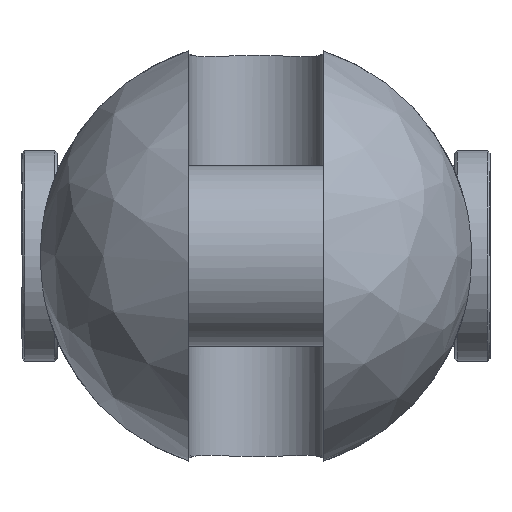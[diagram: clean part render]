
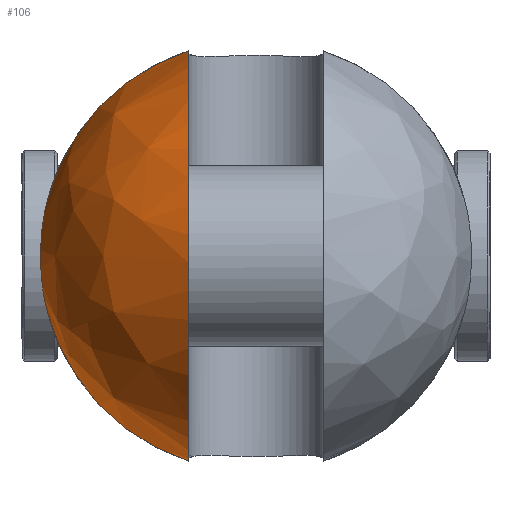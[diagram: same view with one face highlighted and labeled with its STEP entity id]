
A CAD part, left-side view. The second image highlights one B-rep face of the part: STEP entity #106.
In plain terms, the highlighted free-form (B-spline) face has degree [2, 2] with [9, 5] control points.
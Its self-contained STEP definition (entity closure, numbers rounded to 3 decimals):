
#106=ADVANCED_FACE('',(#181),#1311,.T.);
#181=FACE_OUTER_BOUND('',#266,.T.);
#266=EDGE_LOOP('',(#665,#666,#667,#668));
#665=ORIENTED_EDGE('',*,*,#811,.T.);
#666=ORIENTED_EDGE('',*,*,#846,.F.);
#667=ORIENTED_EDGE('',*,*,#878,.T.);
#668=ORIENTED_EDGE('',*,*,#838,.F.);
#811=EDGE_CURVE('',#1196,#1195,#1047,.T.);
#838=EDGE_CURVE('',#1196,#1212,#1059,.T.);
#846=EDGE_CURVE('',#1219,#1195,#1060,.T.);
#878=EDGE_CURVE('',#1219,#1212,#968,.T.);
#968=B_SPLINE_CURVE_WITH_KNOTS('',3,(#3250,#3251,#3252,#3253,#3254,#3255,
#3256,#3257,#3258,#3259,#3260,#3261,#3262,#3263),.UNSPECIFIED.,.F.,.F.,
(4,2,2,2,2,2,4),(0.,1.605,6.679,11.753,
16.827,21.902,23.506),.UNSPECIFIED.);
#1047=(
BOUNDED_CURVE()
B_SPLINE_CURVE(2,(#2908,#2909,#2910,#2911,#2912),.UNSPECIFIED.,.F.,.F.)
B_SPLINE_CURVE_WITH_KNOTS((3,2,3),(-128.258,-64.129,
0.),.UNSPECIFIED.)
CURVE()
GEOMETRIC_REPRESENTATION_ITEM()
RATIONAL_B_SPLINE_CURVE((1.,0.707,1.,0.707,1.))
REPRESENTATION_ITEM('')
);
#1059=(
BOUNDED_CURVE()
B_SPLINE_CURVE(2,(#3060,#3061,#3062),.UNSPECIFIED.,.F.,.F.)
B_SPLINE_CURVE_WITH_KNOTS((3,3),(0.,42.595),.UNSPECIFIED.)
CURVE()
GEOMETRIC_REPRESENTATION_ITEM()
RATIONAL_B_SPLINE_CURVE((1.,0.88,1.))
REPRESENTATION_ITEM('')
);
#1060=(
BOUNDED_CURVE()
B_SPLINE_CURVE(2,(#3117,#3118,#3119),.UNSPECIFIED.,.F.,.F.)
B_SPLINE_CURVE_WITH_KNOTS((3,3),(0.,42.595),.UNSPECIFIED.)
CURVE()
GEOMETRIC_REPRESENTATION_ITEM()
RATIONAL_B_SPLINE_CURVE((1.,0.88,1.))
REPRESENTATION_ITEM('')
);
#1195=VERTEX_POINT('',#2841);
#1196=VERTEX_POINT('',#2842);
#1212=VERTEX_POINT('',#2858);
#1219=VERTEX_POINT('',#2865);
#1311=(
BOUNDED_SURFACE()
B_SPLINE_SURFACE(2,2,((#2763,#2764,#2765,#2766,#2767),(#2768,#2769,#2770,
#2771,#2772),(#2773,#2774,#2775,#2776,#2777),(#2778,#2779,#2780,#2781,#2782),
(#2783,#2784,#2785,#2786,#2787),(#2788,#2789,#2790,#2791,#2792),(#2793,
#2794,#2795,#2796,#2797),(#2798,#2799,#2800,#2801,#2802),(#2803,#2804,#2805,
#2806,#2807)),.UNSPECIFIED.,.T.,.F.,.F.)
B_SPLINE_SURFACE_WITH_KNOTS((3,2,2,2,3),(3,2,3),(0.,67.544,135.088,
202.633,270.177),(0.,67.544,135.088),
 .UNSPECIFIED.)
GEOMETRIC_REPRESENTATION_ITEM()
RATIONAL_B_SPLINE_SURFACE(((1.,0.707,1.,0.707,1.),
(0.707,0.5,0.707,0.5,0.707),(1.,0.707,
1.,0.707,1.),(0.707,0.5,0.707,0.5,0.707),
(1.,0.707,1.,0.707,1.),(0.707,0.5,0.707,
0.5,0.707),(1.,0.707,1.,0.707,1.),(0.707,
0.5,0.707,0.5,0.707),(1.,0.707,1.,0.707,
1.)))
REPRESENTATION_ITEM('')
SURFACE()
);
#2763=CARTESIAN_POINT('',(-62.,0.,0.));
#2764=CARTESIAN_POINT('',(-62.,-43.,0.));
#2765=CARTESIAN_POINT('',(-19.,-43.,0.));
#2766=CARTESIAN_POINT('',(24.,-43.,0.));
#2767=CARTESIAN_POINT('',(24.,0.,0.));
#2768=CARTESIAN_POINT('',(-62.,0.,0.));
#2769=CARTESIAN_POINT('',(-62.,-43.,-43.));
#2770=CARTESIAN_POINT('',(-19.,-43.,-43.));
#2771=CARTESIAN_POINT('',(24.,-43.,-43.));
#2772=CARTESIAN_POINT('',(24.,0.,0.));
#2773=CARTESIAN_POINT('',(-62.,0.,0.));
#2774=CARTESIAN_POINT('',(-62.,0.,-43.));
#2775=CARTESIAN_POINT('',(-19.,0.,-43.));
#2776=CARTESIAN_POINT('',(24.,0.,-43.));
#2777=CARTESIAN_POINT('',(24.,0.,0.));
#2778=CARTESIAN_POINT('',(-62.,0.,0.));
#2779=CARTESIAN_POINT('',(-62.,43.,-43.));
#2780=CARTESIAN_POINT('',(-19.,43.,-43.));
#2781=CARTESIAN_POINT('',(24.,43.,-43.));
#2782=CARTESIAN_POINT('',(24.,0.,0.));
#2783=CARTESIAN_POINT('',(-62.,0.,0.));
#2784=CARTESIAN_POINT('',(-62.,43.,0.));
#2785=CARTESIAN_POINT('',(-19.,43.,0.));
#2786=CARTESIAN_POINT('',(24.,43.,0.));
#2787=CARTESIAN_POINT('',(24.,0.,0.));
#2788=CARTESIAN_POINT('',(-62.,0.,0.));
#2789=CARTESIAN_POINT('',(-62.,43.,43.));
#2790=CARTESIAN_POINT('',(-19.,43.,43.));
#2791=CARTESIAN_POINT('',(24.,43.,43.));
#2792=CARTESIAN_POINT('',(24.,0.,0.));
#2793=CARTESIAN_POINT('',(-62.,0.,0.));
#2794=CARTESIAN_POINT('',(-62.,0.,43.));
#2795=CARTESIAN_POINT('',(-19.,0.,43.));
#2796=CARTESIAN_POINT('',(24.,0.,43.));
#2797=CARTESIAN_POINT('',(24.,0.,0.));
#2798=CARTESIAN_POINT('',(-62.,0.,0.));
#2799=CARTESIAN_POINT('',(-62.,-43.,43.));
#2800=CARTESIAN_POINT('',(-19.,-43.,43.));
#2801=CARTESIAN_POINT('',(24.,-43.,43.));
#2802=CARTESIAN_POINT('',(24.,0.,0.));
#2803=CARTESIAN_POINT('',(-62.,0.,0.));
#2804=CARTESIAN_POINT('',(-62.,-43.,0.));
#2805=CARTESIAN_POINT('',(-19.,-43.,0.));
#2806=CARTESIAN_POINT('',(24.,-43.,0.));
#2807=CARTESIAN_POINT('',(24.,0.,0.));
#2841=CARTESIAN_POINT('',(-19.,13.5,40.826));
#2842=CARTESIAN_POINT('',(-19.,13.5,-40.826));
#2858=CARTESIAN_POINT('',(-19.,41.545,-11.091));
#2865=CARTESIAN_POINT('',(-19.,41.545,11.091));
#2908=CARTESIAN_POINT('',(-19.,13.5,-40.826));
#2909=CARTESIAN_POINT('',(-59.826,13.5,-40.826));
#2910=CARTESIAN_POINT('',(-59.826,13.5,0.));
#2911=CARTESIAN_POINT('',(-59.826,13.5,40.826));
#2912=CARTESIAN_POINT('',(-19.,13.5,40.826));
#3060=CARTESIAN_POINT('',(-19.,13.5,-40.826));
#3061=CARTESIAN_POINT('',(-19.,35.554,-33.533));
#3062=CARTESIAN_POINT('',(-19.,41.545,-11.091));
#3117=CARTESIAN_POINT('',(-19.,41.545,11.091));
#3118=CARTESIAN_POINT('',(-19.,35.554,33.533));
#3119=CARTESIAN_POINT('',(-19.,13.5,40.826));
#3250=CARTESIAN_POINT('',(-19.,41.545,11.091));
#3251=CARTESIAN_POINT('',(-19.266,41.667,10.635));
#3252=CARTESIAN_POINT('',(-19.516,41.781,10.169));
#3253=CARTESIAN_POINT('',(-20.488,42.222,8.188));
#3254=CARTESIAN_POINT('',(-21.058,42.476,6.585));
#3255=CARTESIAN_POINT('',(-21.815,42.813,3.309));
#3256=CARTESIAN_POINT('',(-22.,42.895,1.636));
#3257=CARTESIAN_POINT('',(-22.,42.895,-1.636));
#3258=CARTESIAN_POINT('',(-21.815,42.813,-3.309));
#3259=CARTESIAN_POINT('',(-21.058,42.476,-6.585));
#3260=CARTESIAN_POINT('',(-20.488,42.222,-8.188));
#3261=CARTESIAN_POINT('',(-19.516,41.781,-10.169));
#3262=CARTESIAN_POINT('',(-19.266,41.667,-10.635));
#3263=CARTESIAN_POINT('',(-19.,41.545,-11.091));
